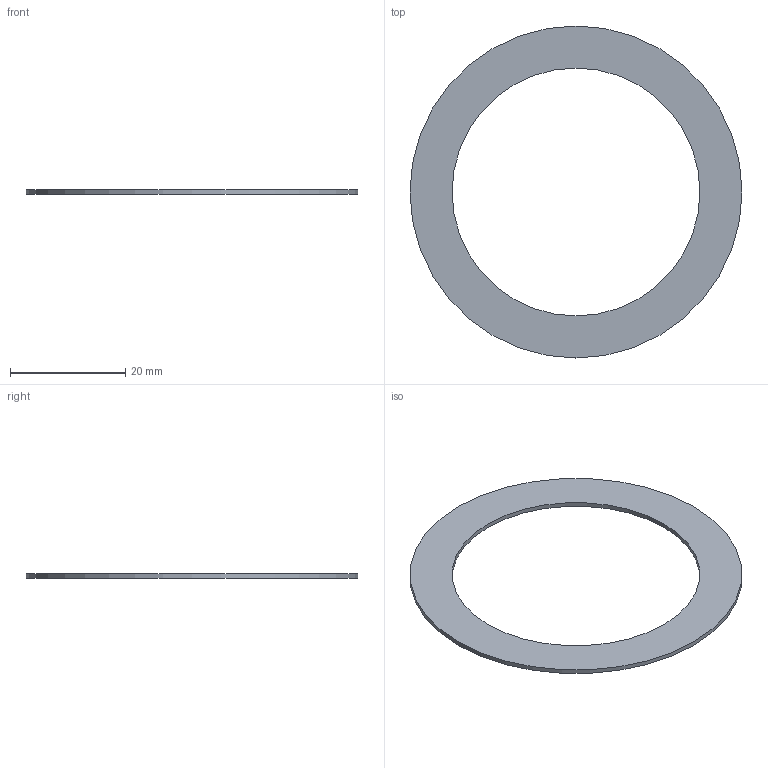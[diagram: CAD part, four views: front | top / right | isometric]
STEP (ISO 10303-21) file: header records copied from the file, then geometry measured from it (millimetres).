
FILE_DESCRIPTION(('Open CASCADE Model'),'2;1');
FILE_NAME('Open CASCADE Shape Model','2026-11-03T19:53:07',('Author'),( 'Open CASCADE'),'Open CASCADE STEP processor 7.9','Open CASCADE 7.9' ,'Unknown');
FILE_SCHEMA(('AUTOMOTIVE_DESIGN { 1 0 10303 214 1 1 1 1 }'));
Length unit declared in the file: millimetre
Products named in the file (1): Open CASCADE STEP translator 7.9 3
Bounding box: 57.6 x 57.6 x 0.76 mm (x, y, z)
Volume: 879 mm3; surface area: 2547.9 mm2
Topology: 1 solids, 1 shells, 4 faces, 6 edges, 4 vertices
Faces by surface type: cylinder 2, plane 2
Full cylindrical faces by diameter (mm): 43 x1, 57.6 x1
Entity records: 186 total; most frequent: DIRECTION 32, CARTESIAN_POINT 27, ORIENTED_EDGE 12, PCURVE 12, DEFINITIONAL_REPRESENTATION 12, LINE 10, VECTOR 10, AXIS2_PLACEMENT_3D 9
